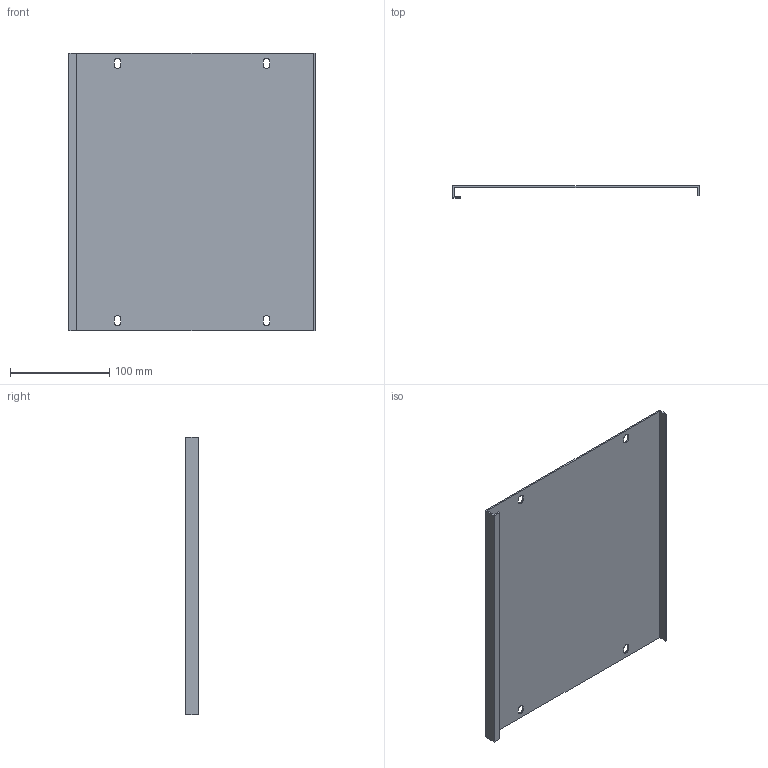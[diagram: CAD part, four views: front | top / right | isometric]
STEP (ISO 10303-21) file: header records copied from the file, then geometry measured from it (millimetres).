
FILE_DESCRIPTION (( 'STEP AP214' ), '1' );
FILE_NAME ('FO-00-PVS-025-040 Ïëàñòðîí ãëóõîé âíóòðåííèé 250õ400.STEP', '2025-08-26T10:21:22', ( '' ), ( '' ), 'SwSTEP 2.0', 'SolidWorks 2023', '' );
FILE_SCHEMA (( 'AUTOMOTIVE_DESIGN' ));
Length unit declared in the file: millimetre
Products named in the file (1): FO-00-PVS-025-040 Пластрон глухой внутренний 250х400
Bounding box: 248 x 12.5 x 279 mm (x, y, z)
Volume: 114312.1 mm3; surface area: 154243.1 mm2
Topology: 1 solids, 1 shells, 42 faces, 120 edges, 80 vertices
Faces by surface type: plane 30, cylinder 12
Entity records: 1407 total; most frequent: CARTESIAN_POINT 243, ORIENTED_EDGE 240, DIRECTION 230, EDGE_CURVE 120, VECTOR 96, LINE 96, VERTEX_POINT 80, AXIS2_PLACEMENT_3D 67
